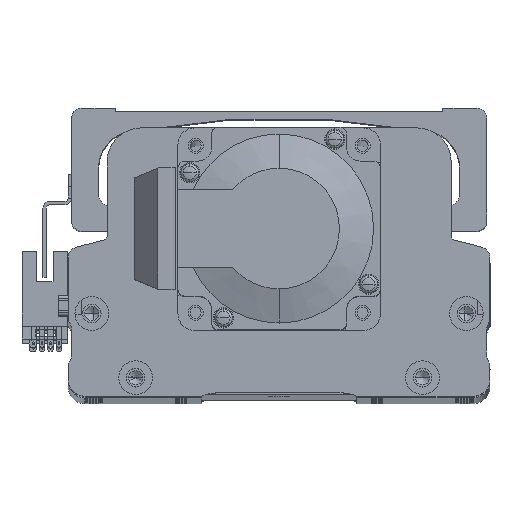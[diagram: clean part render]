
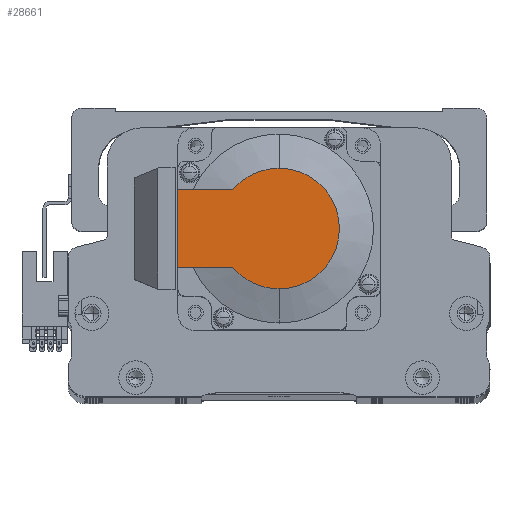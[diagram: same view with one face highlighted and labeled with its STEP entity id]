
A CAD part, top view. The second image highlights one B-rep face of the part: STEP entity #28661.
In plain terms, the highlighted planar face has unit normal (0, 0, 1) as drawn and (-1, 0, 0) by its records, which use the part's own axes.
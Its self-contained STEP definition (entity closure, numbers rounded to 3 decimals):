
#274 = DIRECTION ( 'NONE',  ( 0., 0., 1. ) ) ;
#344 = EDGE_CURVE ( 'NONE', #22663, #9455, #11178, .T. ) ;
#976 = AXIS2_PLACEMENT_3D ( 'NONE', #8743, #38266, #12981 ) ;
#1389 = ORIENTED_EDGE ( 'NONE', *, *, #10784, .T. ) ;
#1783 = VECTOR ( 'NONE', #50630, 1000. ) ;
#3092 = LINE ( 'NONE', #46398, #1783 ) ;
#6015 = CARTESIAN_POINT ( 'NONE',  ( -118.5, 0., 11.45 ) ) ;
#8191 = CARTESIAN_POINT ( 'NONE',  ( -118.5, 30., 25. ) ) ;
#8743 = CARTESIAN_POINT ( 'NONE',  ( -118.5, 0., 0. ) ) ;
#9455 = VERTEX_POINT ( 'NONE', #11850 ) ;
#9845 = VECTOR ( 'NONE', #274, 1000. ) ;
#10784 = EDGE_CURVE ( 'NONE', #22663, #15384, #3092, .T. ) ;
#11178 = LINE ( 'NONE', #8191, #9845 ) ;
#11850 = CARTESIAN_POINT ( 'NONE',  ( -118.5, 30., 11.45 ) ) ;
#12981 = DIRECTION ( 'NONE',  ( 0., 0., -1. ) ) ;
#13670 = CIRCLE ( 'NONE', #15434, 17.881 ) ;
#14157 = EDGE_CURVE ( 'NONE', #15458, #15891, #31253, .T. ) ;
#14492 = ORIENTED_EDGE ( 'NONE', *, *, #49409, .T. ) ;
#15327 = VECTOR ( 'NONE', #48259, 1000. ) ;
#15384 = VERTEX_POINT ( 'NONE', #35192 ) ;
#15434 = AXIS2_PLACEMENT_3D ( 'NONE', #43603, #18293, #47821 ) ;
#15458 = VERTEX_POINT ( 'NONE', #27081 ) ;
#15891 = VERTEX_POINT ( 'NONE', #34245 ) ;
#16938 = FACE_OUTER_BOUND ( 'NONE', #21528, .T. ) ;
#17813 = ORIENTED_EDGE ( 'NONE', *, *, #344, .F. ) ;
#18293 = DIRECTION ( 'NONE',  ( -1., 0., 0. ) ) ;
#19210 = DIRECTION ( 'NONE',  ( -1., 0., 0. ) ) ;
#20411 = CARTESIAN_POINT ( 'NONE',  ( -118.5, 13.735, 11.45 ) ) ;
#21528 = EDGE_LOOP ( 'NONE', ( #1389, #14492, #28731, #40588, #50413, #17813 ) ) ;
#22451 = CARTESIAN_POINT ( 'NONE',  ( -118.5, 0., 0. ) ) ;
#22663 = VERTEX_POINT ( 'NONE', #34570 ) ;
#26579 = LINE ( 'NONE', #6015, #15327 ) ;
#26697 = DIRECTION ( 'NONE',  ( 0., 0., -1. ) ) ;
#27081 = CARTESIAN_POINT ( 'NONE',  ( -118.5, 0., -17.881 ) ) ;
#28528 = EDGE_CURVE ( 'NONE', #15891, #51245, #13670, .T. ) ;
#28661 = ADVANCED_FACE ( 'NONE', ( #16938 ), #52778, .T. ) ;
#28731 = ORIENTED_EDGE ( 'NONE', *, *, #14157, .T. ) ;
#31253 = CIRCLE ( 'NONE', #976, 17.881 ) ;
#34245 = CARTESIAN_POINT ( 'NONE',  ( -118.5, 0., 17.881 ) ) ;
#34570 = CARTESIAN_POINT ( 'NONE',  ( -118.5, 30., -11.45 ) ) ;
#35192 = CARTESIAN_POINT ( 'NONE',  ( -118.5, 13.735, -11.45 ) ) ;
#36095 = EDGE_CURVE ( 'NONE', #9455, #51245, #26579, .T. ) ;
#37686 = AXIS2_PLACEMENT_3D ( 'NONE', #22451, #51955, #26697 ) ;
#38266 = DIRECTION ( 'NONE',  ( -1., 0., 0. ) ) ;
#40588 = ORIENTED_EDGE ( 'NONE', *, *, #28528, .T. ) ;
#43603 = CARTESIAN_POINT ( 'NONE',  ( -118.5, 0., 0. ) ) ;
#44526 = CARTESIAN_POINT ( 'NONE',  ( -118.5, -8.941, 0. ) ) ;
#46398 = CARTESIAN_POINT ( 'NONE',  ( -118.5, -8.941, -11.45 ) ) ;
#47821 = DIRECTION ( 'NONE',  ( 0., 0., -1. ) ) ;
#48259 = DIRECTION ( 'NONE',  ( 0., -1., 0. ) ) ;
#48742 = DIRECTION ( 'NONE',  ( 0., 0., 1. ) ) ;
#49256 = CIRCLE ( 'NONE', #37686, 17.881 ) ;
#49409 = EDGE_CURVE ( 'NONE', #15384, #15458, #49256, .T. ) ;
#50413 = ORIENTED_EDGE ( 'NONE', *, *, #36095, .F. ) ;
#50630 = DIRECTION ( 'NONE',  ( 0., -1., 0. ) ) ;
#51245 = VERTEX_POINT ( 'NONE', #20411 ) ;
#51955 = DIRECTION ( 'NONE',  ( -1., 0., 0. ) ) ;
#52205 = AXIS2_PLACEMENT_3D ( 'NONE', #44526, #19210, #48742 ) ;
#52778 = PLANE ( 'NONE',  #52205 ) ;
